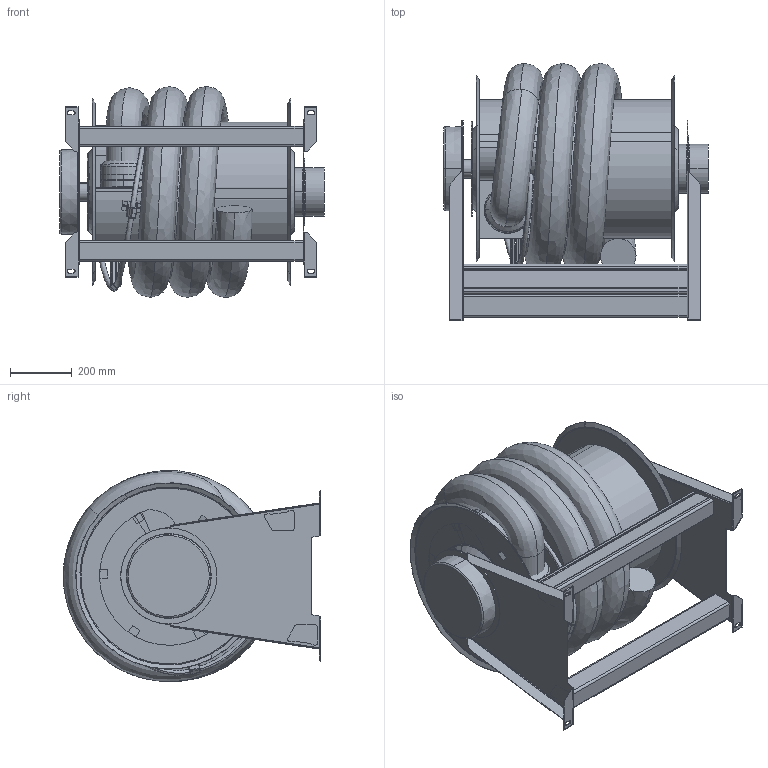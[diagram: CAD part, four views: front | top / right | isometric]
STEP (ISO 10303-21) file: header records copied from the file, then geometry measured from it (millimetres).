
FILE_DESCRIPTION((''),'2;1');
FILE_NAME('ASE_65_100_5_SW0001','2016-12-15T',('Martin Eriksson'),(''),'CREO PARAMETRIC BY PTC INC, 2016130','CREO PARAMETRIC BY PTC INC, 2016130','');
FILE_SCHEMA(('AUTOMOTIVE_DESIGN { 1 0 10303 214 1 1 1 1 }'));
Length unit declared in the file: millimetre
Products named in the file (1): ASE_65_100_5_SW0001
Bounding box: 853.5 x 830.5 x 680.34 mm (x, y, z)
Surface area: 6286511.8 mm2 (no closed solid volume)
Topology: 0 solids, 27 shells, 440 faces, 1341 edges, 907 vertices
Faces by surface type: plane 233, cylinder 125, bspline 31, torus 29, cone 22
Entity records: 23961 total; most frequent: CARTESIAN_POINT 9340, DIRECTION 2532, ORIENTED_EDGE 2148, EDGE_CURVE 1341, VERTEX_POINT 907, VECTOR 864, LINE 864, AXIS2_PLACEMENT_3D 834
